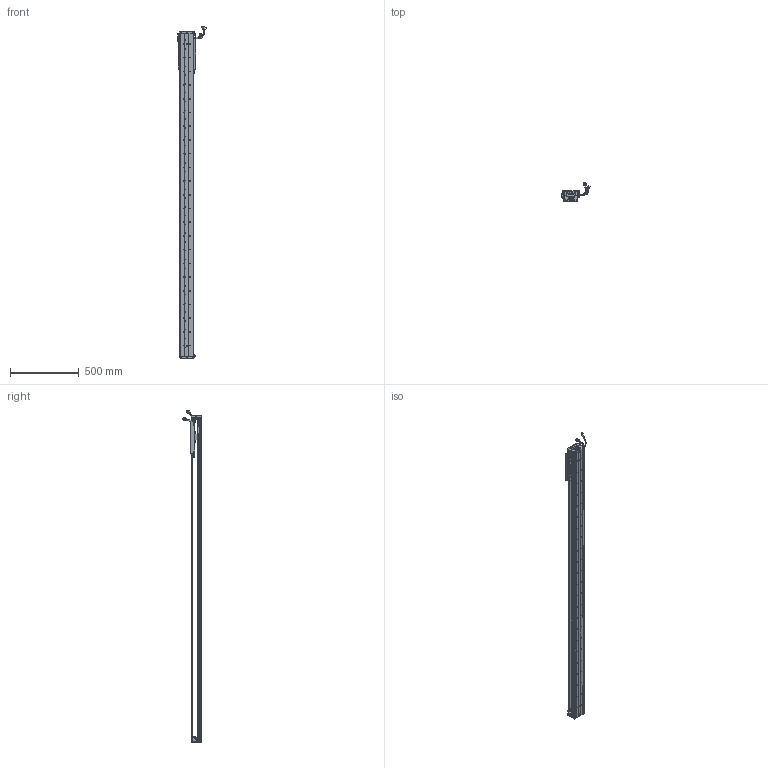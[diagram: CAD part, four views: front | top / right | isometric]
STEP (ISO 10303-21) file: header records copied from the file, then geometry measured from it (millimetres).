
FILE_DESCRIPTION (( 'STEP AP203' ), '1' );
FILE_NAME ('Z3-RY100D-1-L500-B-K.SLDASM_2050.step', '2021-05-17T02:51:44', ( '盈信电脑' ), ( '东莞市道滘镇水果街19号' ), 'SwSTEP 2.0', 'SolidWorks 2016', '' );
FILE_SCHEMA (( 'CONFIG_CONTROL_DESIGN' ));
Length unit declared in the file: millimetre
Products named in the file (36): Z3-RY100D-1-L500-B-K.SLDASM_2050; SCREW-M1.6; COVER; SHIELDPLATE; HOLDER0; 100-Z-臏賑輸盄裔(21遴); SCALE-Part-2; Z-100詩湍傷裔啣; Z3-RY100D-500-倰第菁釱_2050; LABEL; 140蚥薯蝶輸; 140雄赽晤鎢ん堤盄; COVER-Part-1; SEAL-Part-1; SCALE-Part-1; PBU_SHEET; 080黍杅芛假蚾釱21遴; 榋妏寠巭燃_暯_M2_2; SCALE; SCREW-M1.7; SCREW-M1.7-1; SCREW-M1.6-3; 覜茼ん672; HARNESS-Part-2; HARNESS-Part-1; Z3-RY100铝滑块（21款）; PSLH080_PSLF2; Z-RY100D詩湍奻揤裔; LABEL-Part-1; HARNESS; SEAL; SCREW-M1.6-2; Z-RY100D詩湍狟揤裔; SCREW-M1.6-1; Z3-RY100-L500詩湍90mm遵_2050; Z-RY100D覜茼んえ
Assembly tree (43 placements, depth 4):
  Z3-RY100D-1-L500-B-K.SLDASM_2050
    Z3-RY100D-500-倰第菁釱_2050
    Z3-RY100铝滑块（21款）
    PSLH080_PSLF2
      SCALE
        SCALE-Part-1
        SCALE-Part-2
      HARNESS
        HARNESS-Part-1
        HARNESS-Part-2
      LABEL
        LABEL-Part-1
      COVER
        COVER-Part-1
      SEAL
        SEAL-Part-1
      榋妏寠巭燃_暯_M2_2
      SHIELDPLATE
      SCREW-M1.7
      SCREW-M1.7-1
      PBU_SHEET
      SCREW-M1.6
      SCREW-M1.6-1
      SCREW-M1.6-2
      SCREW-M1.6-3
      HOLDER0
    080黍杅芛假蚾釱21遴
    Z-100詩湍傷裔啣  x2
    140蚥薯蝶輸  x2
    覜茼ん672  x3
    Z-RY100D覜茼んえ  x3
    100-Z-臏賑輸盄裔(21遴)
    140雄赽晤鎢ん堤盄
    Z3-RY100-L500詩湍90mm遵_2050
    Z-RY100D詩湍狟揤裔  x2
    Z-RY100D詩湍奻揤裔  x2
Bounding box: 205.84 x 136.11 x 2420.43 mm (x, y, z)
Volume: 4496702.1 mm3; surface area: 1764583.8 mm2
Topology: 38 solids, 38 shells, 2929 faces, 7945 edges, 5064 vertices
Faces by surface type: cylinder 1410, plane 1171, cone 226, torus 69, bspline 53
Entity records: 83947 total; most frequent: CARTESIAN_POINT 17597, DIRECTION 13499, ORIENTED_EDGE 12770, EDGE_CURVE 6385, AXIS2_PLACEMENT_3D 5058, VERTEX_POINT 4132, LINE 3383, VECTOR 3383
